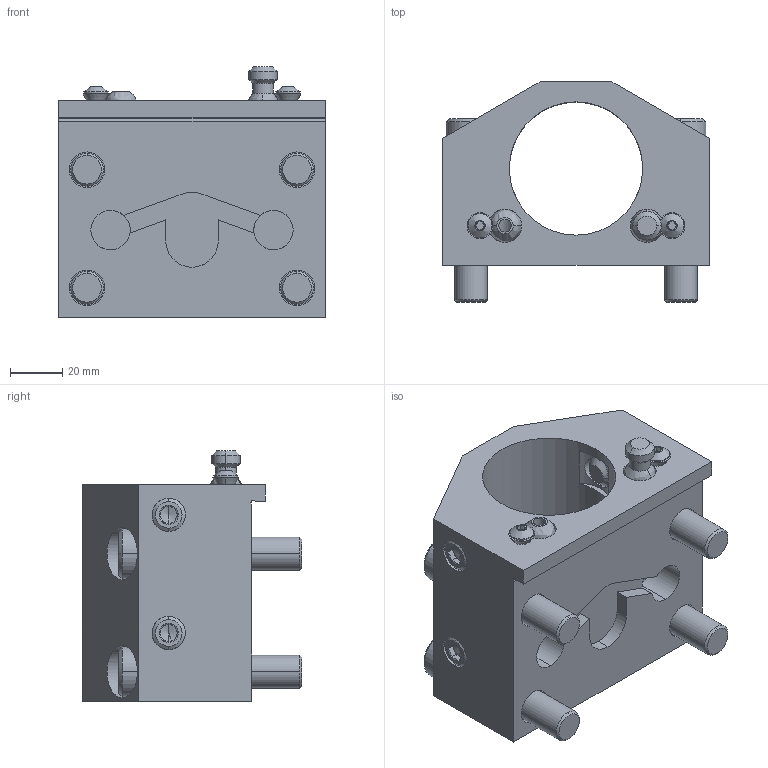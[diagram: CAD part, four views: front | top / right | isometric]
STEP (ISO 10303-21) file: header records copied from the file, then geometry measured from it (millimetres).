
FILE_DESCRIPTION (( 'STEP AP203' ), '1' );
FILE_NAME ('04-0755, BOT20ID-2.0.STEP', '2022-07-18T22:14:00', ( '' ), ( '' ), 'SwSTEP 2.0', 'SolidWorks 2021', '' );
FILE_SCHEMA (( 'CONFIG_CONTROL_DESIGN' ));
Length unit declared in the file: inch
Products named in the file (1): 04-0755, BOT20ID-2.0
Bounding box: 101.6 x 83.82 x 95.42 mm (x, y, z)
Surface area: 75277.5 mm2 (no closed solid volume)
Topology: 0 solids, 24 shells, 345 faces, 887 edges, 571 vertices
Faces by surface type: plane 164, cylinder 80, cone 74, bspline 27
Entity records: 16263 total; most frequent: CARTESIAN_POINT 8162, ORIENTED_EDGE 1635, DIRECTION 1575, EDGE_CURVE 871, AXIS2_PLACEMENT_3D 581, VERTEX_POINT 571, VECTOR 413, LINE 413
